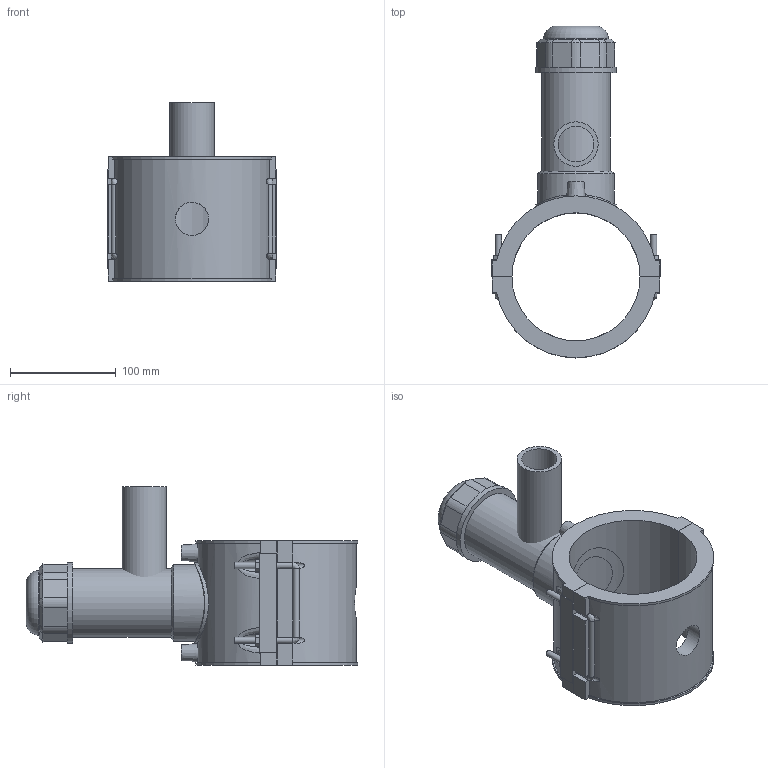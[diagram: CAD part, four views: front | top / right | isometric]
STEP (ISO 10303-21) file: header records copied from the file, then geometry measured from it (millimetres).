
FILE_DESCRIPTION(/* description */ ('PLASSON TAPPING SADDLE 4''''DIPS x 1 1/4''''IPS'),/* implementation_level */ '2;1');
FILE_NAME(/* name */ 'C:\Dropbox\KIMPROJECTS-Inventor 2019\99-16-3568-Processing Inch\ASTM ElectroFusion 2021\5963DBP_5963BUP\5963DBP3040013.ipt.stp',/* time_stamp */ '2021-08-30T09:58:21+03:00',/* author */ ('KIM'),/* organization */ (''),/* preprocessor_version */ 'ST-DEVELOPER v17.2',/* originating_system */ 'Autodesk Inventor 2019',/* authorisation */ '');
FILE_SCHEMA (('AUTOMOTIVE_DESIGN { 1 0 10303 214 3 1 1 }'));
Length unit declared in the file: inch
Products named in the file (1): 5963DBP3040013
Bounding box: 161 x 314.4 x 169.04 mm (x, y, z)
Volume: 1183392.9 mm3; surface area: 233861.7 mm2
Topology: 3 solids, 3 shells, 194 faces, 502 edges, 328 vertices
Faces by surface type: plane 118, cylinder 52, cone 15, bspline 8, torus 1
Full cylindrical faces by diameter (mm): 4 x2, 6 x8, 10 x2, 31.36 x1, 33.68 x1, 42.1 x1, 53.493 x1, 61.135 x1, 64.956 x1, 72.598 x1, 76.419 x2
Entity records: 7083 total; most frequent: CARTESIAN_POINT 2282, ORIENTED_EDGE 1004, DIRECTION 953, EDGE_CURVE 502, VERTEX_POINT 328, AXIS2_PLACEMENT_3D 322, LINE 309, VECTOR 309
